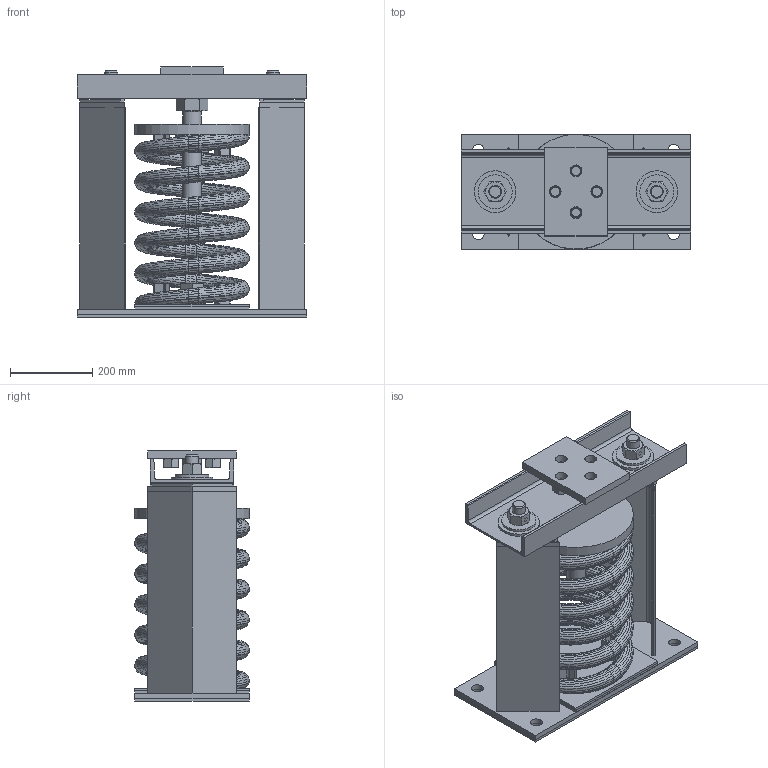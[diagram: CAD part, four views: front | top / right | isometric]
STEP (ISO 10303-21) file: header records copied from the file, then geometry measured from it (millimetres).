
FILE_DESCRIPTION(/* description */ (''),/* implementation_level */ '2;1');
FILE_NAME(/* name */ 'C:\001_Work\Designs\SLR-100 SERIES\SLR 100 SERIES (NON STOCK MOUNTS)\SLR 192-194\SLR-194.stp',/* time_stamp */ '2016-01-19T15:21:24-05:00',/* author */ ('rramoutar'),/* organization */ ('Mason Industries Inc.'),/* preprocessor_version */ 'ST-DEVELOPER v15.6',/* originating_system */ 'Autodesk Inventor 2015',/* authorisation */ '');
FILE_SCHEMA (('CONFIG_CONTROL_DESIGN'));
Products named in the file (1): SLR-194 PER A-29060-2
Bounding box: 558.8 x 279.4 x 609.6 mm (x, y, z)
Volume: 12160854.4 mm3; surface area: 3524107.4 mm2
Topology: 38 solids, 38 shells, 992 faces, 2122 edges, 1212 vertices
Faces by surface type: bspline 506, plane 281, cone 122, cylinder 80, torus 3
Full cylindrical faces by diameter (mm): 9.525 x2, 12.7 x1, 21.971 x4, 27.813 x2, 28.575 x12, 30.162 x2, 31.75 x2, 32.436 x2, 33.337 x2, 38.964 x1, 40.894 x1, 44.45 x1, 47.625 x3, 48.26 x1, 50.8 x2, 57.15 x4, 66.675 x1, 82.55 x2, 101.6 x2, 279.4 x1
Entity records: 46517 total; most frequent: CARTESIAN_POINT 28650, ORIENTED_EDGE 4046, DIRECTION 2073, EDGE_CURVE 2023, VERTEX_POINT 1184, EDGE_LOOP 1131, STYLED_ITEM 1030, B_SPLINE_CURVE_WITH_KNOTS 1019
